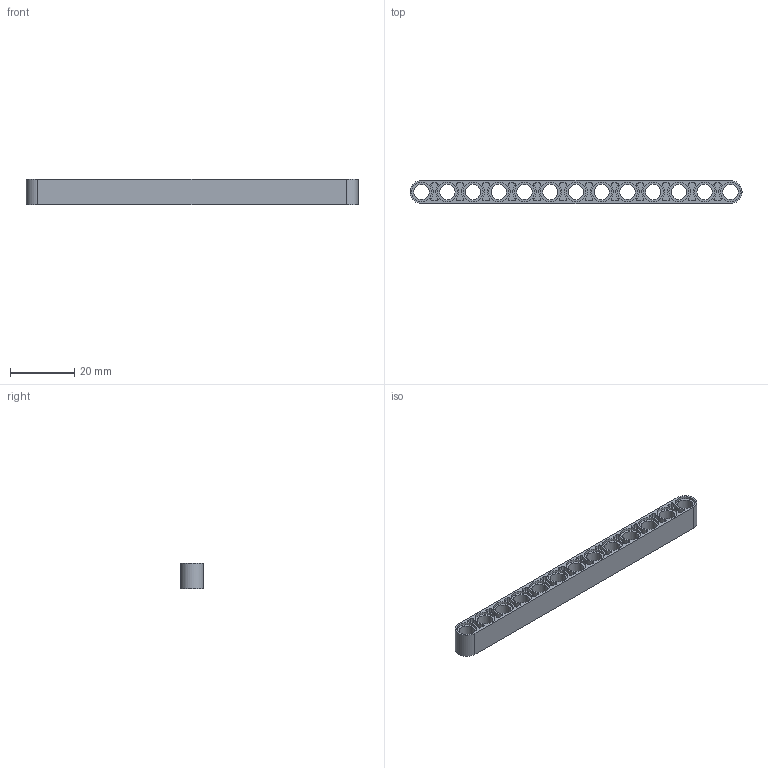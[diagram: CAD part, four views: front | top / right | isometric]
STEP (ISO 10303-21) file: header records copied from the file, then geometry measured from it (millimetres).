
FILE_DESCRIPTION(/* description */ ('Unknown'),/* implementation_level */ '2;1');
FILE_NAME(/* name */ 'Ye_4522935_AVV',/* time_stamp */ '2025-07-22T00:09:32+02:00',/* author */ ('Unknown'),/* organization */ ('Unknown'),/* preprocessor_version */ 'ST-DEVELOPER v19.4',/* originating_system */ 'Solid Edge',/* authorisation */ 'Unknown');
FILE_SCHEMA (('AUTOMOTIVE_DESIGN {1 0 10303 214 3 1 1}'));
Length unit declared in the file: millimetre
Products named in the file (1): Ye_4522935_AVV
Bounding box: 103.2 x 7.2 x 8 mm (x, y, z)
Volume: 3123.1 mm3; surface area: 5510.9 mm2
Topology: 1 solids, 1 shells, 287 faces, 705 edges, 470 vertices
Faces by surface type: cylinder 185, plane 102
Full cylindrical faces by diameter (mm): 4.8 x13, 6.2 x26
Entity records: 8536 total; most frequent: DIRECTION 1612, CARTESIAN_POINT 1424, ORIENTED_EDGE 1332, EDGE_CURVE 666, AXIS2_PLACEMENT_3D 658, VERTEX_POINT 470, EDGE_LOOP 402, FACE_BOUND 402
